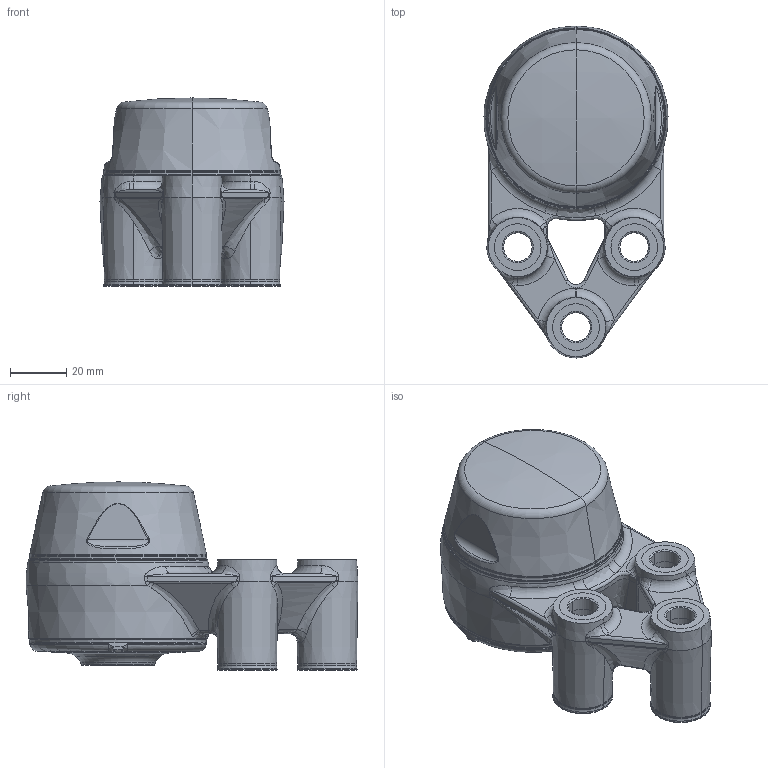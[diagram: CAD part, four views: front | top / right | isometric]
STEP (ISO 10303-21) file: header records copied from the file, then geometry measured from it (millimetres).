
FILE_DESCRIPTION (( 'STEP AP203' ), '1' );
FILE_NAME ('XB3FC52(Blue)-SSB2540(Front)-CL(Blue)-OS(Blue)_Shell.step', '2020-09-23T13:22:06', ( '' ), ( '' ), 'SwSTEP 2.0', 'SolidWorks 2019', '' );
FILE_SCHEMA (( 'CONFIG_CONTROL_DESIGN' ));
Length unit declared in the file: millimetre
Products named in the file (1): XB3FC52(Blue)-SSB2540(Front)-CL(Blue)-OS(Blue)_Shell
Bounding box: 65.6 x 118.34 x 67.05 mm (x, y, z)
Surface area: 41438.2 mm2 (no closed solid volume)
Topology: 0 solids, 39 shells, 464 faces, 1819 edges, 1363 vertices
Faces by surface type: bspline 171, cone 82, torus 77, cylinder 62, plane 43, sphere 29
Entity records: 33620 total; most frequent: CARTESIAN_POINT 20879, ORIENTED_EDGE 2744, DIRECTION 1984, EDGE_CURVE 1817, VERTEX_POINT 1363, B_SPLINE_CURVE_WITH_KNOTS 1004, AXIS2_PLACEMENT_3D 897, CIRCLE 603
